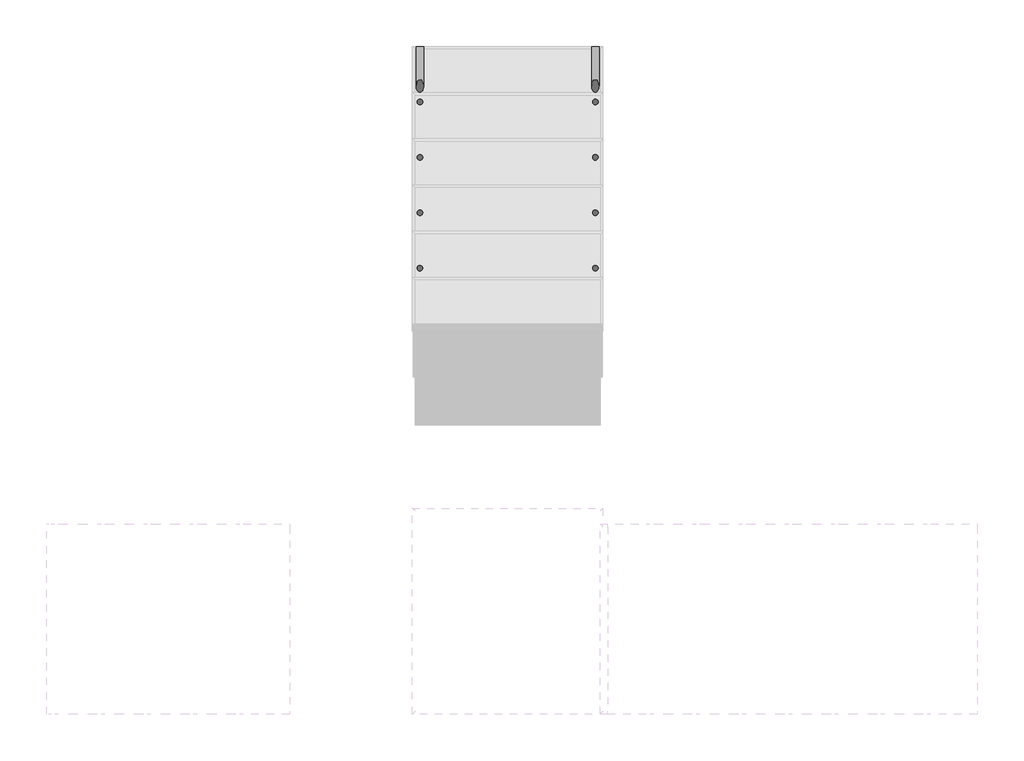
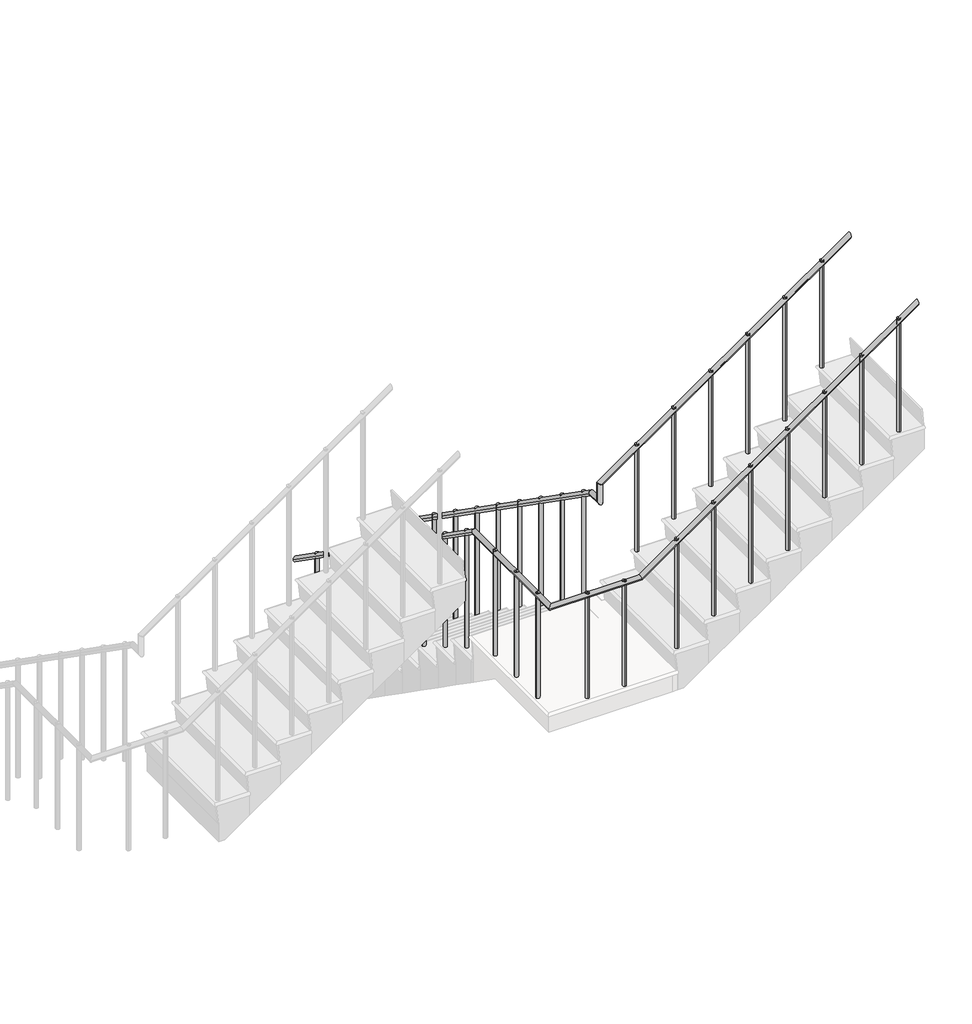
# One storey, part 6 of 6: 2 railings.
"""IFC4 building model written with IfcOpenShell, lengths in millimetres."""

from ifc_helpers import new_model, si_unit, point, frame, frame_2d, origin, place, context, project, spatial, circle_curve, ellipse_curve, trimmed, segment, composite_curve, outline, extrude, element, save
from ifc_brep_helpers import plane_surface, cylinder_surface, advanced_brep

model = new_model("IFC4")

# Units and contexts
model_context = context("Model", 3, world=origin())
ifc_project = project(units=[si_unit("LENGTHUNIT", "METRE", prefix="MILLI")], contexts=[model_context])

# Site, building, storey
site = spatial("IfcSite", under=ifc_project)
building = spatial("IfcBuilding", under=site)
storey = spatial("IfcBuildingStorey", under=building, Name="樓層 1", Elevation=0.0)

# Railings
placement = place(None, origin())
element("IfcRailing", 1, ObjectType="900mm 圓管", at=placement, inside=storey, context=model_context, shape_type="SolidModel", body=[
    advanced_brep(
    [(-2704.1669097, 3000.9077212, 1050.5868888), (-2664.1669097, 3000.9077212, 1050.5868888), (290.4330903, -593.6922788, 4375.5868888), (290.4330903, -553.6922788, 4375.5868888), (-2704.1669097, 494.6032766, 2805.0), (-2664.1669097, 494.6032766, 2805.0), (-2704.1669097, -593.6922788, 2805.0), (-2664.1669097, -553.6922788, 2805.0), (-1953.2624651, -593.6922788, 2805.0), (-1953.2624651, -553.6922788, 2805.0)],
    [
        (0, 1, ellipse_curve(frame((-2684.1669097, 3000.9077212, 1050.5868888), z_axis=(0.0, 1.0, 0.0), x_axis=(0.0, 0.0, -1.0)), 24.4131112, 20.0)),
        (1, 0, ellipse_curve(frame((-2684.1669097, 3000.9077212, 1050.5868888), z_axis=(0.0, 1.0, 0.0), x_axis=(0.0, 0.0, -1.0)), 24.4131112, 20.0)),
        (2, 3, ellipse_curve(frame((290.4330903, -573.6922788, 4375.5868888), z_axis=(1.0, 0.0, 0.0), x_axis=(0.0, 0.0, -1.0)), 24.4131112, 20.0)),
        (3, 2, ellipse_curve(frame((290.4330903, -573.6922788, 4375.5868888), z_axis=(1.0, 0.0, 0.0), x_axis=(0.0, 0.0, -1.0)), 24.4131112, 20.0)),
        (0, 4),
        (4, 5, ellipse_curve(frame((-2684.1669097, 494.6032766, 2805.0), z_axis=(0.0, 0.9537378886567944, -0.3006393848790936), x_axis=(0.0, -0.30063938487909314, -0.9537378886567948)), 20.9701221, 20.0)),
        (5, 1),
        (5, 4, ellipse_curve(frame((-2684.1669097, 494.6032766, 2805.0), z_axis=(0.0, 0.9537378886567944, -0.3006393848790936), x_axis=(0.0, -0.30063938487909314, -0.9537378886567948)), 20.9701221, 20.0)),
        (4, 6),
        (6, 7, ellipse_curve(frame((-2684.1669097, -573.6922788, 2805.0), z_axis=(-0.7071067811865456, 0.7071067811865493, 0.0), x_axis=(0.7071067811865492, 0.7071067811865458, 0.0)), 28.2842712, 20.0)),
        (7, 5),
        (7, 6, ellipse_curve(frame((-2684.1669097, -573.6922788, 2805.0), z_axis=(-0.7071067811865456, 0.7071067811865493, 0.0), x_axis=(0.7071067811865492, 0.7071067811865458, 0.0)), 28.2842712, 20.0)),
        (6, 8),
        (8, 9, ellipse_curve(frame((-1953.2624651, -573.6922788, 2805.0), z_axis=(-0.9537378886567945, 0.0, -0.3006393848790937), x_axis=(-0.3006393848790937, 0.0, 0.9537378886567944)), 20.9701221, 20.0)),
        (9, 7),
        (9, 8, ellipse_curve(frame((-1953.2624651, -573.6922788, 2805.0), z_axis=(-0.9537378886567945, 0.0, -0.3006393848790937), x_axis=(-0.3006393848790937, 0.0, 0.9537378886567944)), 20.9701221, 20.0)),
        (8, 2),
        (3, 9),
    ],
    [
        plane_surface(frame((-2684.1669097, 3000.9077212, 1075.0), z_axis=(0.0, 1.0, 0.0), x_axis=(0.0, 0.0, -1.0))),
        plane_surface(frame((290.4330903, -573.6922788, 4400.0), z_axis=(1.0, 0.0, 0.0), x_axis=(0.0, 1.0, 0.0))),
        cylinder_surface(frame((-2684.1669097, 2989.4384743, 1058.6153616), z_axis=(0.0, 0.8192319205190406, -0.5734623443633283), x_axis=(1.0, 0.0, 0.0)), 20.0),
        cylinder_surface(frame((-2684.1669097, 500.9077212, 2805.0), z_axis=(0.0, 1.0, 0.0), x_axis=(1.0, 0.0, 0.0)), 20.0),
        cylinder_surface(frame((-2684.1669097, -573.6922788, 2805.0), z_axis=(-1.0, 0.0, 0.0), x_axis=(0.0, 1.0, 0.0)), 20.0),
        cylinder_surface(frame((-1948.0976628, -573.6922788, 2808.6153616), z_axis=(-0.8192319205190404, 0.0, -0.5734623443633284), x_axis=(0.0, 1.0, 0.0)), 20.0),
    ],
    [
        (0, [[1, 2]]),
        (1, [[3, 4]]),
        (2, [[-1, 5, 6, 7]]),
        (2, [[-2, -7, 8, -5]]),
        (3, [[-6, 9, 10, 11]]),
        (3, [[-8, -11, 12, -9]]),
        (4, [[-10, 13, 14, 15]]),
        (4, [[-12, -15, 16, -13]]),
        (5, [[-14, 17, -4, 18]]),
        (5, [[-16, -18, -3, -17]]),
    ],
),
    extrude(outline(composite_curve([segment(trimmed(circle_curve(frame_2d((140.4330903, -573.6922788)), 15.0), [point((140.4330903, -588.6922788))], [point((140.4330903, -558.6922788))], False, "CARTESIAN"), True, "CONTINUOUS"), segment(trimmed(circle_curve(frame_2d((140.4330903, -573.6922788)), 15.0), [point((140.4330903, -558.6922788))], [point((140.4330903, -588.6922788))], False, "CARTESIAN"), True, "CONTINUOUS")], self_intersect=False)), frame((0.0, 0.0, 3325.0), z_axis=(0.0, 0.0, 1.0), x_axis=(1.0, 0.0, 0.0)), (0.0, 0.0, 1.0), 970.0),
    extrude(outline(composite_curve([segment(trimmed(circle_curve(frame_2d((-159.5669097, -573.6922788)), 15.0), [point((-159.5669097, -588.6922788))], [point((-159.5669097, -558.6922788))], False, "CARTESIAN"), True, "CONTINUOUS"), segment(trimmed(circle_curve(frame_2d((-159.5669097, -573.6922788)), 15.0), [point((-159.5669097, -558.6922788))], [point((-159.5669097, -588.6922788))], False, "CARTESIAN"), True, "CONTINUOUS")], self_intersect=False)), frame((0.0, 0.0, 3150.0), z_axis=(0.0, 0.0, 1.0), x_axis=(1.0, 0.0, 0.0)), (0.0, 0.0, 1.0), 935.0),
    extrude(outline(composite_curve([segment(trimmed(circle_curve(frame_2d((-459.5669097, -573.6922788)), 15.0), [point((-459.5669097, -588.6922788))], [point((-459.5669097, -558.6922788))], False, "CARTESIAN"), True, "CONTINUOUS"), segment(trimmed(circle_curve(frame_2d((-459.5669097, -573.6922788)), 15.0), [point((-459.5669097, -558.6922788))], [point((-459.5669097, -588.6922788))], False, "CARTESIAN"), True, "CONTINUOUS")], self_intersect=False)), frame((0.0, 0.0, 2975.0), z_axis=(0.0, 0.0, 1.0), x_axis=(1.0, 0.0, 0.0)), (0.0, 0.0, 1.0), 900.0),
    extrude(outline(composite_curve([segment(trimmed(circle_curve(frame_2d((-759.5669097, -573.6922788)), 15.0), [point((-759.5669097, -588.6922788))], [point((-759.5669097, -558.6922788))], False, "CARTESIAN"), True, "CONTINUOUS"), segment(trimmed(circle_curve(frame_2d((-759.5669097, -573.6922788)), 15.0), [point((-759.5669097, -558.6922788))], [point((-759.5669097, -588.6922788))], False, "CARTESIAN"), True, "CONTINUOUS")], self_intersect=False)), frame((0.0, 0.0, 2625.0), z_axis=(0.0, 0.0, 1.0), x_axis=(1.0, 0.0, 0.0)), (0.0, 0.0, 1.0), 1040.0),
    extrude(outline(composite_curve([segment(trimmed(circle_curve(frame_2d((-1059.5669097, -573.6922788)), 15.0), [point((-1059.5669097, -588.6922788))], [point((-1059.5669097, -558.6922788))], False, "CARTESIAN"), True, "CONTINUOUS"), segment(trimmed(circle_curve(frame_2d((-1059.5669097, -573.6922788)), 15.0), [point((-1059.5669097, -558.6922788))], [point((-1059.5669097, -588.6922788))], False, "CARTESIAN"), True, "CONTINUOUS")], self_intersect=False)), frame((0.0, 0.0, 2450.0), z_axis=(0.0, 0.0, 1.0), x_axis=(1.0, 0.0, 0.0)), (0.0, 0.0, 1.0), 1005.0),
    extrude(outline(composite_curve([segment(trimmed(circle_curve(frame_2d((-1359.5669097, -573.6922788)), 15.0), [point((-1359.5669097, -588.6922788))], [point((-1359.5669097, -558.6922788))], False, "CARTESIAN"), True, "CONTINUOUS"), segment(trimmed(circle_curve(frame_2d((-1359.5669097, -573.6922788)), 15.0), [point((-1359.5669097, -558.6922788))], [point((-1359.5669097, -588.6922788))], False, "CARTESIAN"), True, "CONTINUOUS")], self_intersect=False)), frame((0.0, 0.0, 2275.0), z_axis=(0.0, 0.0, 1.0), x_axis=(1.0, 0.0, 0.0)), (0.0, 0.0, 1.0), 970.0),
    extrude(outline(composite_curve([segment(trimmed(circle_curve(frame_2d((-1659.5669097, -573.6922788)), 15.0), [point((-1659.5669097, -588.6922788))], [point((-1659.5669097, -558.6922788))], False, "CARTESIAN"), True, "CONTINUOUS"), segment(trimmed(circle_curve(frame_2d((-1659.5669097, -573.6922788)), 15.0), [point((-1659.5669097, -558.6922788))], [point((-1659.5669097, -588.6922788))], False, "CARTESIAN"), True, "CONTINUOUS")], self_intersect=False)), frame((0.0, 0.0, 2100.0), z_axis=(0.0, 0.0, 1.0), x_axis=(1.0, 0.0, 0.0)), (0.0, 0.0, 1.0), 935.0),
    extrude(outline(composite_curve([segment(trimmed(circle_curve(frame_2d((-2084.1669097, -573.6922788)), 15.0), [point((-2084.1669097, -588.6922788))], [point((-2084.1669097, -558.6922788))], False, "CARTESIAN"), True, "CONTINUOUS"), segment(trimmed(circle_curve(frame_2d((-2084.1669097, -573.6922788)), 15.0), [point((-2084.1669097, -558.6922788))], [point((-2084.1669097, -588.6922788))], False, "CARTESIAN"), True, "CONTINUOUS")], self_intersect=False)), frame((0.0, 0.0, 1925.0), z_axis=(0.0, 0.0, 1.0), x_axis=(1.0, 0.0, 0.0)), (0.0, 0.0, 1.0), 900.0),
    extrude(outline(composite_curve([segment(trimmed(circle_curve(frame_2d((-2384.1669097, -573.6922788)), 15.0), [point((-2384.1669097, -588.6922788))], [point((-2384.1669097, -558.6922788))], False, "CARTESIAN"), True, "CONTINUOUS"), segment(trimmed(circle_curve(frame_2d((-2384.1669097, -573.6922788)), 15.0), [point((-2384.1669097, -558.6922788))], [point((-2384.1669097, -588.6922788))], False, "CARTESIAN"), True, "CONTINUOUS")], self_intersect=False)), frame((0.0, 0.0, 1925.0), z_axis=(0.0, 0.0, 1.0), x_axis=(1.0, 0.0, 0.0)), (0.0, 0.0, 1.0), 900.0),
    extrude(outline(composite_curve([segment(trimmed(circle_curve(frame_2d((-2684.1669097, -399.0922788)), 15.0), [point((-2699.1669097, -399.0922788))], [point((-2669.1669097, -399.0922788))], False, "CARTESIAN"), True, "CONTINUOUS"), segment(trimmed(circle_curve(frame_2d((-2684.1669097, -399.0922788)), 15.0), [point((-2669.1669097, -399.0922788))], [point((-2699.1669097, -399.0922788))], False, "CARTESIAN"), True, "CONTINUOUS")], self_intersect=False)), frame((0.0, 0.0, 1925.0), z_axis=(0.0, 0.0, 1.0), x_axis=(1.0, 0.0, 0.0)), (0.0, 0.0, 1.0), 900.0),
    extrude(outline(composite_curve([segment(trimmed(circle_curve(frame_2d((-2684.1669097, -99.0922788)), 15.0), [point((-2699.1669097, -99.0922788))], [point((-2669.1669097, -99.0922788))], False, "CARTESIAN"), True, "CONTINUOUS"), segment(trimmed(circle_curve(frame_2d((-2684.1669097, -99.0922788)), 15.0), [point((-2669.1669097, -99.0922788))], [point((-2699.1669097, -99.0922788))], False, "CARTESIAN"), True, "CONTINUOUS")], self_intersect=False)), frame((0.0, 0.0, 1925.0), z_axis=(0.0, 0.0, 1.0), x_axis=(1.0, 0.0, 0.0)), (0.0, 0.0, 1.0), 900.0),
    extrude(outline(composite_curve([segment(trimmed(circle_curve(frame_2d((-2684.1669097, 200.9077212)), 15.0), [point((-2699.1669097, 200.9077212))], [point((-2669.1669097, 200.9077212))], False, "CARTESIAN"), True, "CONTINUOUS"), segment(trimmed(circle_curve(frame_2d((-2684.1669097, 200.9077212)), 15.0), [point((-2669.1669097, 200.9077212))], [point((-2699.1669097, 200.9077212))], False, "CARTESIAN"), True, "CONTINUOUS")], self_intersect=False)), frame((0.0, 0.0, 1925.0), z_axis=(0.0, 0.0, 1.0), x_axis=(1.0, 0.0, 0.0)), (0.0, 0.0, 1.0), 900.0),
    extrude(outline(composite_curve([segment(trimmed(circle_curve(frame_2d((-2684.1669097, 600.9077212)), 15.0), [point((-2699.1669097, 600.9077212))], [point((-2669.1669097, 600.9077212))], False, "CARTESIAN"), True, "CONTINUOUS"), segment(trimmed(circle_curve(frame_2d((-2684.1669097, 600.9077212)), 15.0), [point((-2669.1669097, 600.9077212))], [point((-2699.1669097, 600.9077212))], False, "CARTESIAN"), True, "CONTINUOUS")], self_intersect=False)), frame((0.0, 0.0, 1750.0), z_axis=(0.0, 0.0, 1.0), x_axis=(1.0, 0.0, 0.0)), (0.0, 0.0, 1.0), 1005.0),
    extrude(outline(composite_curve([segment(trimmed(circle_curve(frame_2d((-2684.1669097, 900.9077212)), 15.0), [point((-2699.1669097, 900.9077212))], [point((-2669.1669097, 900.9077212))], False, "CARTESIAN"), True, "CONTINUOUS"), segment(trimmed(circle_curve(frame_2d((-2684.1669097, 900.9077212)), 15.0), [point((-2669.1669097, 900.9077212))], [point((-2699.1669097, 900.9077212))], False, "CARTESIAN"), True, "CONTINUOUS")], self_intersect=False)), frame((0.0, 0.0, 1575.0), z_axis=(0.0, 0.0, 1.0), x_axis=(1.0, 0.0, 0.0)), (0.0, 0.0, 1.0), 970.0),
    extrude(outline(composite_curve([segment(trimmed(circle_curve(frame_2d((-2684.1669097, 1200.9077212)), 15.0), [point((-2699.1669097, 1200.9077212))], [point((-2669.1669097, 1200.9077212))], False, "CARTESIAN"), True, "CONTINUOUS"), segment(trimmed(circle_curve(frame_2d((-2684.1669097, 1200.9077212)), 15.0), [point((-2669.1669097, 1200.9077212))], [point((-2699.1669097, 1200.9077212))], False, "CARTESIAN"), True, "CONTINUOUS")], self_intersect=False)), frame((0.0, 0.0, 1400.0), z_axis=(0.0, 0.0, 1.0), x_axis=(1.0, 0.0, 0.0)), (0.0, 0.0, 1.0), 935.0),
    extrude(outline(composite_curve([segment(trimmed(circle_curve(frame_2d((-2684.1669097, 1500.9077212)), 15.0), [point((-2699.1669097, 1500.9077212))], [point((-2669.1669097, 1500.9077212))], False, "CARTESIAN"), True, "CONTINUOUS"), segment(trimmed(circle_curve(frame_2d((-2684.1669097, 1500.9077212)), 15.0), [point((-2669.1669097, 1500.9077212))], [point((-2699.1669097, 1500.9077212))], False, "CARTESIAN"), True, "CONTINUOUS")], self_intersect=False)), frame((0.0, 0.0, 1225.0), z_axis=(0.0, 0.0, 1.0), x_axis=(1.0, 0.0, 0.0)), (0.0, 0.0, 1.0), 900.0),
    extrude(outline(composite_curve([segment(trimmed(circle_curve(frame_2d((-2684.1669097, 1800.9077212)), 15.0), [point((-2699.1669097, 1800.9077212))], [point((-2669.1669097, 1800.9077212))], False, "CARTESIAN"), True, "CONTINUOUS"), segment(trimmed(circle_curve(frame_2d((-2684.1669097, 1800.9077212)), 15.0), [point((-2669.1669097, 1800.9077212))], [point((-2699.1669097, 1800.9077212))], False, "CARTESIAN"), True, "CONTINUOUS")], self_intersect=False)), frame((0.0, 0.0, 875.0), z_axis=(0.0, 0.0, 1.0), x_axis=(1.0, 0.0, 0.0)), (0.0, 0.0, 1.0), 1040.0),
    extrude(outline(composite_curve([segment(trimmed(circle_curve(frame_2d((-2684.1669097, 2100.9077212)), 15.0), [point((-2699.1669097, 2100.9077212))], [point((-2669.1669097, 2100.9077212))], False, "CARTESIAN"), True, "CONTINUOUS"), segment(trimmed(circle_curve(frame_2d((-2684.1669097, 2100.9077212)), 15.0), [point((-2669.1669097, 2100.9077212))], [point((-2699.1669097, 2100.9077212))], False, "CARTESIAN"), True, "CONTINUOUS")], self_intersect=False)), frame((0.0, 0.0, 700.0), z_axis=(0.0, 0.0, 1.0), x_axis=(1.0, 0.0, 0.0)), (0.0, 0.0, 1.0), 1005.0),
    extrude(outline(composite_curve([segment(trimmed(circle_curve(frame_2d((-2684.1669097, 2400.9077212)), 15.0), [point((-2699.1669097, 2400.9077212))], [point((-2669.1669097, 2400.9077212))], False, "CARTESIAN"), True, "CONTINUOUS"), segment(trimmed(circle_curve(frame_2d((-2684.1669097, 2400.9077212)), 15.0), [point((-2669.1669097, 2400.9077212))], [point((-2699.1669097, 2400.9077212))], False, "CARTESIAN"), True, "CONTINUOUS")], self_intersect=False)), frame((0.0, 0.0, 525.0), z_axis=(0.0, 0.0, 1.0), x_axis=(1.0, 0.0, 0.0)), (0.0, 0.0, 1.0), 970.0),
    extrude(outline(composite_curve([segment(trimmed(circle_curve(frame_2d((-2684.1669097, 2700.9077212)), 15.0), [point((-2699.1669097, 2700.9077212))], [point((-2669.1669097, 2700.9077212))], False, "CARTESIAN"), True, "CONTINUOUS"), segment(trimmed(circle_curve(frame_2d((-2684.1669097, 2700.9077212)), 15.0), [point((-2669.1669097, 2700.9077212))], [point((-2699.1669097, 2700.9077212))], False, "CARTESIAN"), True, "CONTINUOUS")], self_intersect=False)), frame((0.0, 0.0, 350.0), z_axis=(0.0, 0.0, 1.0), x_axis=(1.0, 0.0, 0.0)), (0.0, 0.0, 1.0), 935.0),
])
element("IfcRailing", 2, ObjectType="900mm 圓管", at=placement, inside=storey, context=model_context, shape_type="SolidModel", body=[
    advanced_brep(
    [(-1754.9669097, 3000.9077212, 1050.5868888), (-1714.9669097, 3000.9077212, 1050.5868888), (-1754.9669097, 375.5077212, 2805.0), (-1714.9669097, 375.5077212, 2805.0), (-1754.9669097, 494.6032766, 2805.0), (-1714.9669097, 494.6032766, 2805.0)],
    [
        (0, 1, ellipse_curve(frame((-1734.9669097, 3000.9077212, 1050.5868888), z_axis=(0.0, 1.0, 0.0), x_axis=(0.0, 0.0, -1.0)), 24.4131112, 20.0)),
        (1, 0, ellipse_curve(frame((-1734.9669097, 3000.9077212, 1050.5868888), z_axis=(0.0, 1.0, 0.0), x_axis=(0.0, 0.0, -1.0)), 24.4131112, 20.0)),
        (2, 3, ellipse_curve(frame((-1734.9669097, 375.5077212, 2805.0), z_axis=(0.0, -0.7071067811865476, 0.7071067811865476), x_axis=(0.0, 0.7071067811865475, 0.7071067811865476)), 28.2842712, 20.0)),
        (3, 2, ellipse_curve(frame((-1734.9669097, 375.5077212, 2805.0), z_axis=(0.0, -0.7071067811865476, 0.7071067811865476), x_axis=(0.0, 0.7071067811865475, 0.7071067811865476)), 28.2842712, 20.0)),
        (0, 4),
        (4, 5, ellipse_curve(frame((-1734.9669097, 494.6032766, 2805.0), z_axis=(0.0, 0.9537378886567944, -0.3006393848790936), x_axis=(0.0, -0.30063938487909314, -0.9537378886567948)), 20.9701221, 20.0)),
        (5, 1),
        (5, 4, ellipse_curve(frame((-1734.9669097, 494.6032766, 2805.0), z_axis=(0.0, 0.9537378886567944, -0.3006393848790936), x_axis=(0.0, -0.30063938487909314, -0.9537378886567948)), 20.9701221, 20.0)),
        (4, 2),
        (3, 5),
    ],
    [
        plane_surface(frame((-1734.9669097, 3000.9077212, 1075.0), z_axis=(0.0, 1.0, 0.0), x_axis=(0.0, 0.0, -1.0))),
        plane_surface(frame((-1734.9669097, 395.5077212, 2825.0), z_axis=(0.0, -0.7071067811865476, 0.7071067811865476), x_axis=(1.0, 0.0, 0.0))),
        cylinder_surface(frame((-1734.9669097, 2989.4384743, 1058.6153616), z_axis=(0.0, 0.8192319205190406, -0.5734623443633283), x_axis=(1.0, 0.0, 0.0)), 20.0),
        cylinder_surface(frame((-1734.9669097, 500.9077212, 2805.0), z_axis=(0.0, 1.0, 0.0), x_axis=(1.0, 0.0, 0.0)), 20.0),
    ],
    [
        (0, [[1, 2]]),
        (1, [[3, 4]]),
        (2, [[-1, 5, 6, 7]]),
        (2, [[-2, -7, 8, -5]]),
        (3, [[-6, 9, -4, 10]]),
        (3, [[-8, -10, -3, -9]]),
    ],
),
    advanced_brep(
    [(-1754.9669097, 375.5077212, 2805.0), (-1714.9669097, 375.5077212, 2805.0), (-1754.9669097, 375.5077212, 2968.22), (-1714.9669097, 375.5077212, 2947.3937775)],
    [
        (0, 1, ellipse_curve(frame((-1734.9669097, 375.5077212, 2805.0), z_axis=(0.0, 0.7071067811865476, -0.7071067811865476), x_axis=(0.0, -0.7071067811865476, -0.7071067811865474)), 28.2842712, 20.0)),
        (1, 0, ellipse_curve(frame((-1734.9669097, 375.5077212, 2805.0), z_axis=(0.0, 0.7071067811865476, -0.7071067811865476), x_axis=(0.0, -0.7071067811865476, -0.7071067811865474)), 28.2842712, 20.0)),
        (2, 3, ellipse_curve(frame((-1734.9669097, 375.5077212, 2957.8068888), z_axis=(0.4618103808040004, 0.0, 0.8869786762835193), x_axis=(0.8869786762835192, 0.0, -0.4618103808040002)), 22.5484564, 20.0)),
        (3, 2, ellipse_curve(frame((-1734.9669097, 375.5077212, 2957.8068888), z_axis=(0.4618103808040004, 0.0, 0.8869786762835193), x_axis=(0.8869786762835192, 0.0, -0.4618103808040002)), 22.5484564, 20.0)),
        (0, 2),
        (3, 1),
    ],
    [
        plane_surface(frame((-1734.9669097, 375.5077212, 2805.0), z_axis=(0.0, 0.7071067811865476, -0.7071067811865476), x_axis=(1.0, 0.0, 0.0))),
        plane_surface(frame((-1734.9669097, 375.5077212, 2957.8068888), z_axis=(0.4618103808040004, 0.0, 0.8869786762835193), x_axis=(0.8869786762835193, 0.0, -0.4618103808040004))),
        cylinder_surface(frame((-1734.9669097, 375.5077212, 2805.0), z_axis=(0.0, 0.0, -1.0), x_axis=(1.0, 0.0, 0.0)), 20.0),
    ],
    [
        (0, [[1, 2]]),
        (1, [[3, 4]]),
        (2, [[-1, 5, -4, 6]]),
        (2, [[-2, -6, -3, -5]]),
    ],
),
    advanced_brep(
    [(-1734.9669097, 355.5077212, 2957.8068888), (-1734.9669097, 395.5077212, 2957.8068888), (290.4330903, 355.5077212, 4375.5868888), (290.4330903, 395.5077212, 4375.5868888)],
    [
        (0, 1, ellipse_curve(frame((-1734.9669097, 375.5077212, 2957.8068888), z_axis=(-0.4618103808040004, 0.0, -0.8869786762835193), x_axis=(-0.8869786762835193, 0.0, 0.46181038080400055)), 22.5484564, 20.0)),
        (1, 0, ellipse_curve(frame((-1734.9669097, 375.5077212, 2957.8068888), z_axis=(-0.4618103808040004, 0.0, -0.8869786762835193), x_axis=(-0.8869786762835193, 0.0, 0.46181038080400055)), 22.5484564, 20.0)),
        (2, 3, ellipse_curve(frame((290.4330903, 375.5077212, 4375.5868888), z_axis=(1.0, 0.0, 0.0), x_axis=(0.0, 0.0, -1.0)), 24.4131112, 20.0)),
        (3, 2, ellipse_curve(frame((290.4330903, 375.5077212, 4375.5868888), z_axis=(1.0, 0.0, 0.0), x_axis=(0.0, 0.0, -1.0)), 24.4131112, 20.0)),
        (0, 2),
        (3, 1),
    ],
    [
        plane_surface(frame((-1754.9669097, 375.5077212, 2968.22), z_axis=(-0.4618103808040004, 0.0, -0.8869786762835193), x_axis=(0.8869786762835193, 0.0, -0.4618103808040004))),
        plane_surface(frame((290.4330903, 375.5077212, 4400.0), z_axis=(1.0, 0.0, 0.0), x_axis=(0.0, 1.0, 0.0))),
        cylinder_surface(frame((-1743.4976628, 375.5077212, 2951.8353616), z_axis=(-0.8192319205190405, 0.0, -0.5734623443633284), x_axis=(0.0, 1.0, 0.0)), 20.0),
    ],
    [
        (0, [[1, 2]]),
        (1, [[3, 4]]),
        (2, [[-1, 5, -4, 6]]),
        (2, [[-2, -6, -3, -5]]),
    ],
),
    extrude(outline(composite_curve([segment(trimmed(circle_curve(frame_2d((65.0330903, 375.5077212)), 15.0), [point((65.0330903, 390.5077212))], [point((65.0330903, 360.5077212))], False, "CARTESIAN"), True, "CONTINUOUS"), segment(trimmed(circle_curve(frame_2d((65.0330903, 375.5077212)), 15.0), [point((65.0330903, 360.5077212))], [point((65.0330903, 390.5077212))], False, "CARTESIAN"), True, "CONTINUOUS")], self_intersect=False)), frame((0.0, 0.0, 3325.0), z_axis=(0.0, 0.0, 1.0), x_axis=(1.0, 0.0, 0.0)), (0.0, 0.0, 1.0), 917.22),
    extrude(outline(composite_curve([segment(trimmed(circle_curve(frame_2d((-234.9669097, 375.5077212)), 15.0), [point((-234.9669097, 390.5077212))], [point((-234.9669097, 360.5077212))], False, "CARTESIAN"), True, "CONTINUOUS"), segment(trimmed(circle_curve(frame_2d((-234.9669097, 375.5077212)), 15.0), [point((-234.9669097, 360.5077212))], [point((-234.9669097, 390.5077212))], False, "CARTESIAN"), True, "CONTINUOUS")], self_intersect=False)), frame((0.0, 0.0, 2975.0), z_axis=(0.0, 0.0, 1.0), x_axis=(1.0, 0.0, 0.0)), (0.0, 0.0, 1.0), 1057.22),
    extrude(outline(composite_curve([segment(trimmed(circle_curve(frame_2d((-534.9669097, 375.5077212)), 15.0), [point((-534.9669097, 390.5077212))], [point((-534.9669097, 360.5077212))], False, "CARTESIAN"), True, "CONTINUOUS"), segment(trimmed(circle_curve(frame_2d((-534.9669097, 375.5077212)), 15.0), [point((-534.9669097, 360.5077212))], [point((-534.9669097, 390.5077212))], False, "CARTESIAN"), True, "CONTINUOUS")], self_intersect=False)), frame((0.0, 0.0, 2800.0), z_axis=(0.0, 0.0, 1.0), x_axis=(1.0, 0.0, 0.0)), (0.0, 0.0, 1.0), 1022.22),
    extrude(outline(composite_curve([segment(trimmed(circle_curve(frame_2d((-834.9669097, 375.5077212)), 15.0), [point((-834.9669097, 390.5077212))], [point((-834.9669097, 360.5077212))], False, "CARTESIAN"), True, "CONTINUOUS"), segment(trimmed(circle_curve(frame_2d((-834.9669097, 375.5077212)), 15.0), [point((-834.9669097, 360.5077212))], [point((-834.9669097, 390.5077212))], False, "CARTESIAN"), True, "CONTINUOUS")], self_intersect=False)), frame((0.0, 0.0, 2625.0), z_axis=(0.0, 0.0, 1.0), x_axis=(1.0, 0.0, 0.0)), (0.0, 0.0, 1.0), 987.22),
    extrude(outline(composite_curve([segment(trimmed(circle_curve(frame_2d((-1134.9669097, 375.5077212)), 15.0), [point((-1134.9669097, 390.5077212))], [point((-1134.9669097, 360.5077212))], False, "CARTESIAN"), True, "CONTINUOUS"), segment(trimmed(circle_curve(frame_2d((-1134.9669097, 375.5077212)), 15.0), [point((-1134.9669097, 360.5077212))], [point((-1134.9669097, 390.5077212))], False, "CARTESIAN"), True, "CONTINUOUS")], self_intersect=False)), frame((0.0, 0.0, 2450.0), z_axis=(0.0, 0.0, 1.0), x_axis=(1.0, 0.0, 0.0)), (0.0, 0.0, 1.0), 952.22),
    extrude(outline(composite_curve([segment(trimmed(circle_curve(frame_2d((-1434.9669097, 375.5077212)), 15.0), [point((-1434.9669097, 390.5077212))], [point((-1434.9669097, 360.5077212))], False, "CARTESIAN"), True, "CONTINUOUS"), segment(trimmed(circle_curve(frame_2d((-1434.9669097, 375.5077212)), 15.0), [point((-1434.9669097, 360.5077212))], [point((-1434.9669097, 390.5077212))], False, "CARTESIAN"), True, "CONTINUOUS")], self_intersect=False)), frame((0.0, 0.0, 2275.0), z_axis=(0.0, 0.0, 1.0), x_axis=(1.0, 0.0, 0.0)), (0.0, 0.0, 1.0), 917.22),
    extrude(outline(composite_curve([segment(trimmed(circle_curve(frame_2d((-1734.9669097, 600.9077212)), 15.0), [point((-1719.9669097, 600.9077212))], [point((-1749.9669097, 600.9077212))], False, "CARTESIAN"), True, "CONTINUOUS"), segment(trimmed(circle_curve(frame_2d((-1734.9669097, 600.9077212)), 15.0), [point((-1749.9669097, 600.9077212))], [point((-1719.9669097, 600.9077212))], False, "CARTESIAN"), True, "CONTINUOUS")], self_intersect=False)), frame((0.0, 0.0, 1750.0), z_axis=(0.0, 0.0, 1.0), x_axis=(1.0, 0.0, 0.0)), (0.0, 0.0, 1.0), 1005.0),
    extrude(outline(composite_curve([segment(trimmed(circle_curve(frame_2d((-1734.9669097, 900.9077212)), 15.0), [point((-1719.9669097, 900.9077212))], [point((-1749.9669097, 900.9077212))], False, "CARTESIAN"), True, "CONTINUOUS"), segment(trimmed(circle_curve(frame_2d((-1734.9669097, 900.9077212)), 15.0), [point((-1749.9669097, 900.9077212))], [point((-1719.9669097, 900.9077212))], False, "CARTESIAN"), True, "CONTINUOUS")], self_intersect=False)), frame((0.0, 0.0, 1575.0), z_axis=(0.0, 0.0, 1.0), x_axis=(1.0, 0.0, 0.0)), (0.0, 0.0, 1.0), 970.0),
    extrude(outline(composite_curve([segment(trimmed(circle_curve(frame_2d((-1734.9669097, 1200.9077212)), 15.0), [point((-1719.9669097, 1200.9077212))], [point((-1749.9669097, 1200.9077212))], False, "CARTESIAN"), True, "CONTINUOUS"), segment(trimmed(circle_curve(frame_2d((-1734.9669097, 1200.9077212)), 15.0), [point((-1749.9669097, 1200.9077212))], [point((-1719.9669097, 1200.9077212))], False, "CARTESIAN"), True, "CONTINUOUS")], self_intersect=False)), frame((0.0, 0.0, 1400.0), z_axis=(0.0, 0.0, 1.0), x_axis=(1.0, 0.0, 0.0)), (0.0, 0.0, 1.0), 935.0),
    extrude(outline(composite_curve([segment(trimmed(circle_curve(frame_2d((-1734.9669097, 1500.9077212)), 15.0), [point((-1719.9669097, 1500.9077212))], [point((-1749.9669097, 1500.9077212))], False, "CARTESIAN"), True, "CONTINUOUS"), segment(trimmed(circle_curve(frame_2d((-1734.9669097, 1500.9077212)), 15.0), [point((-1749.9669097, 1500.9077212))], [point((-1719.9669097, 1500.9077212))], False, "CARTESIAN"), True, "CONTINUOUS")], self_intersect=False)), frame((0.0, 0.0, 1225.0), z_axis=(0.0, 0.0, 1.0), x_axis=(1.0, 0.0, 0.0)), (0.0, 0.0, 1.0), 900.0),
    extrude(outline(composite_curve([segment(trimmed(circle_curve(frame_2d((-1734.9669097, 1800.9077212)), 15.0), [point((-1719.9669097, 1800.9077212))], [point((-1749.9669097, 1800.9077212))], False, "CARTESIAN"), True, "CONTINUOUS"), segment(trimmed(circle_curve(frame_2d((-1734.9669097, 1800.9077212)), 15.0), [point((-1749.9669097, 1800.9077212))], [point((-1719.9669097, 1800.9077212))], False, "CARTESIAN"), True, "CONTINUOUS")], self_intersect=False)), frame((0.0, 0.0, 875.0), z_axis=(0.0, 0.0, 1.0), x_axis=(1.0, 0.0, 0.0)), (0.0, 0.0, 1.0), 1040.0),
    extrude(outline(composite_curve([segment(trimmed(circle_curve(frame_2d((-1734.9669097, 2100.9077212)), 15.0), [point((-1719.9669097, 2100.9077212))], [point((-1749.9669097, 2100.9077212))], False, "CARTESIAN"), True, "CONTINUOUS"), segment(trimmed(circle_curve(frame_2d((-1734.9669097, 2100.9077212)), 15.0), [point((-1749.9669097, 2100.9077212))], [point((-1719.9669097, 2100.9077212))], False, "CARTESIAN"), True, "CONTINUOUS")], self_intersect=False)), frame((0.0, 0.0, 700.0), z_axis=(0.0, 0.0, 1.0), x_axis=(1.0, 0.0, 0.0)), (0.0, 0.0, 1.0), 1005.0),
    extrude(outline(composite_curve([segment(trimmed(circle_curve(frame_2d((-1734.9669097, 2400.9077212)), 15.0), [point((-1719.9669097, 2400.9077212))], [point((-1749.9669097, 2400.9077212))], False, "CARTESIAN"), True, "CONTINUOUS"), segment(trimmed(circle_curve(frame_2d((-1734.9669097, 2400.9077212)), 15.0), [point((-1749.9669097, 2400.9077212))], [point((-1719.9669097, 2400.9077212))], False, "CARTESIAN"), True, "CONTINUOUS")], self_intersect=False)), frame((0.0, 0.0, 525.0), z_axis=(0.0, 0.0, 1.0), x_axis=(1.0, 0.0, 0.0)), (0.0, 0.0, 1.0), 970.0),
    extrude(outline(composite_curve([segment(trimmed(circle_curve(frame_2d((-1734.9669097, 2700.9077212)), 15.0), [point((-1719.9669097, 2700.9077212))], [point((-1749.9669097, 2700.9077212))], False, "CARTESIAN"), True, "CONTINUOUS"), segment(trimmed(circle_curve(frame_2d((-1734.9669097, 2700.9077212)), 15.0), [point((-1749.9669097, 2700.9077212))], [point((-1719.9669097, 2700.9077212))], False, "CARTESIAN"), True, "CONTINUOUS")], self_intersect=False)), frame((0.0, 0.0, 350.0), z_axis=(0.0, 0.0, 1.0), x_axis=(1.0, 0.0, 0.0)), (0.0, 0.0, 1.0), 935.0),
])

save(model, "model.ifc")
